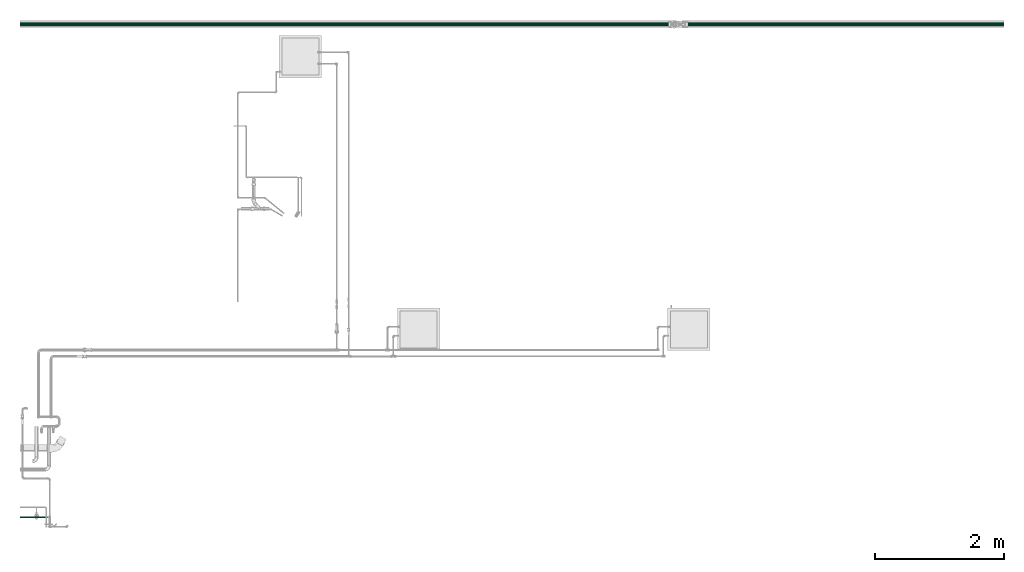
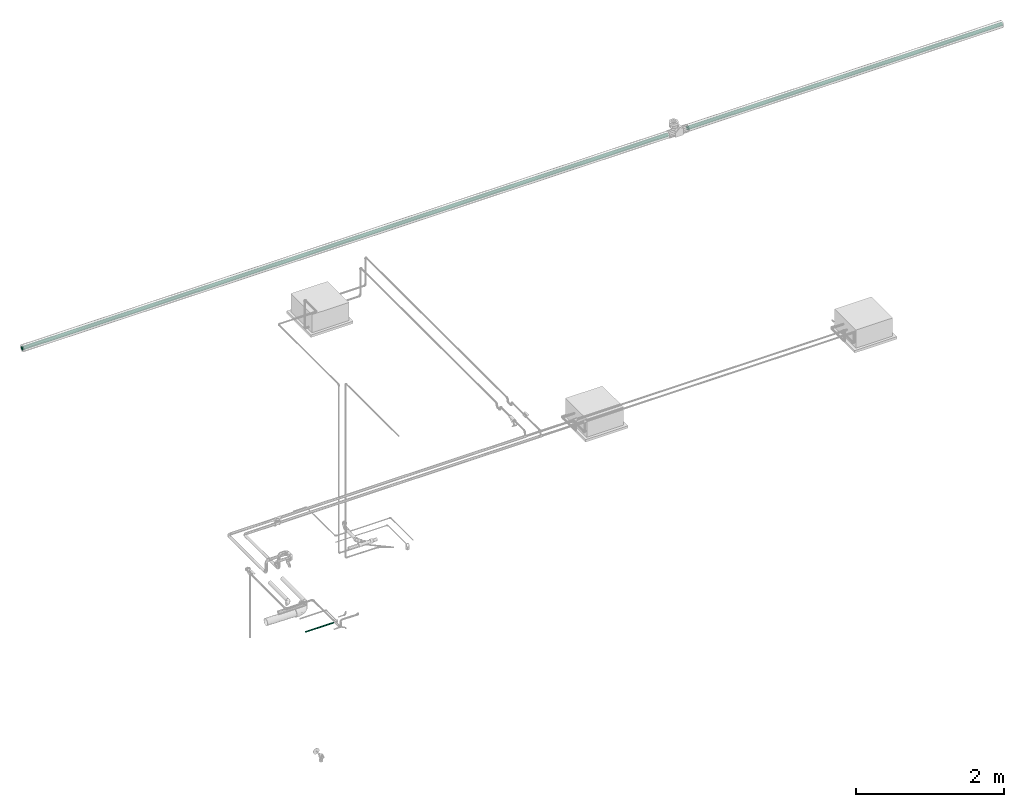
# One storey, part 24 of 35: 3 flow segments.
"""IFC2X3 building model written with IfcOpenShell, lengths in millimetres."""

from ifc_helpers import new_model, entity, si_unit, converted_unit, derived_unit, direction, frame, place, context, subcontext, project, spatial, faceted_brep, type_object, element, save


model = new_model("IFC2X3")

# Units and contexts
model_context = context("Model", 3, precision=0.01, world=frame((0.0, 4.29681676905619e-09, 0.0)), true_north=direction((4.01073788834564e-13, 1.0)))
plan_context = context("Plan", 3, precision=0.01, world=frame((0.0, 4.29681676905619e-09, 0.0)), true_north=direction((4.01073788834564e-13, 1.0)))
body_context = subcontext(model_context, "Body", "Model", "MODEL_VIEW")
ifc_project = project(units=[converted_unit("PLANEANGLEUNIT", "DEGREE", entity("IfcPositiveLengthMeasure", 0.0174532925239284), si_unit("PLANEANGLEUNIT", "RADIAN"), dimensions=[0, 0, 0, 0, 0, 0, 0]), si_unit("AREAUNIT", "SQUARE_METRE"), si_unit("LENGTHUNIT", "METRE", prefix="MILLI"), si_unit("MASSUNIT", "GRAM", prefix="KILO"), si_unit("POWERUNIT", "WATT"), si_unit("PRESSUREUNIT", "PASCAL"), si_unit("FORCEUNIT", "NEWTON", prefix="KILO"), si_unit("ELECTRICVOLTAGEUNIT", "VOLT"), si_unit("ELECTRICCURRENTUNIT", "AMPERE"), si_unit("THERMODYNAMICTEMPERATUREUNIT", "DEGREE_CELSIUS"), si_unit("TIMEUNIT", "SECOND"), si_unit("VOLUMEUNIT", "CUBIC_METRE"), derived_unit("LINEARVELOCITYUNIT", [(si_unit("LENGTHUNIT", "METRE"), 1), (si_unit("TIMEUNIT", "SECOND"), -1)]), derived_unit("VOLUMETRICFLOWRATEUNIT", [(si_unit("VOLUMEUNIT", "CUBIC_METRE"), 1), (si_unit("TIMEUNIT", "SECOND"), -1)]), derived_unit("THERMALTRANSMITTANCEUNIT", [(si_unit("POWERUNIT", "WATT"), 1), (si_unit("THERMODYNAMICTEMPERATUREUNIT", "KELVIN"), -1), (si_unit("AREAUNIT", "SQUARE_METRE"), -1)]), derived_unit("SOUNDPRESSUREUNIT", [(si_unit("PRESSUREUNIT", "PASCAL"), 1)])], contexts=[model_context, plan_context])

# Site, building, storey
site_placement = place(None, frame((0.0, -4.29681676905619e-09, 0.0), z_axis=(0.0, 0.0, 1.0), x_axis=(1.0, 0.0, 0.0)))
site = spatial("IfcSite", under=ifc_project, at=site_placement, Name="ENGM", CompositionType="ELEMENT")
building_placement = place(site_placement, frame((0.0, 4.29681676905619e-09, 0.0), z_axis=(0.0, 0.0, 1.0), x_axis=(1.0, 0.0, 0.0)))
building = spatial("IfcBuilding", under=site, at=building_placement, Name="TH", CompositionType="ELEMENT")
storey_placement = place(building_placement, frame((0.0, 0.0, 210200.0), z_axis=(0.0, 0.0, 1.0), x_axis=(1.0, 0.0, 0.0)))
storey = spatial("IfcBuildingStorey", under=building, at=storey_placement, Name="Nivå F - 0,7 m", CompositionType="ELEMENT", Elevation=210200.0)

# Flow segments
pipe_segment_type_1 = type_object("IfcPipeSegmentType", Name="MA", PredefinedType="RIGIDSEGMENT")
flow_segment_1_placement = place(storey_placement, frame((893206.46324, 486361.4, 3085.00002000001), z_axis=(0.0, 0.0, 1.0), x_axis=(1.0, 0.0, 0.0)))
element("IfcFlowSegment", 1, at=flow_segment_1_placement, inside=storey, type_object=pipe_segment_type_1, Name="MA", context=body_context, shape_type="Brep", body=[
    faceted_brep([(1905.4429285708, 26.5898093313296, -4.68850079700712), (1905.4429285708, 27.0, 0.0), (11985.8, 27.0, 0.0), (11985.8, 26.5898093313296, -4.68850079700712), (1905.4429285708, 25.3717007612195, -9.23454386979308), (11985.8, 25.3717007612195, -9.23454386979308), (1905.4429285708, 23.3826859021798, -13.5), (11985.8, 23.3826859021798, -13.5), (1905.4429285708, 20.6831999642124, -17.3552654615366), (11985.8, 20.6831999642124, -17.3552654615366), (1905.4429285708, 17.3552654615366, -20.6831999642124), (11985.8, 17.3552654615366, -20.6831999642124), (1905.4429285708, 13.5, -23.3826859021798), (11985.8, 13.5, -23.3826859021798), (1905.4429285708, 9.23454386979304, -25.3717007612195), (11985.8, 9.23454386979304, -25.3717007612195), (1905.4429285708, 4.68850079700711, -26.5898093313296), (11985.8, 4.68850079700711, -26.5898093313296), (1905.4429285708, -4.95981953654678e-15, -27.0), (11985.8, -4.95981953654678e-15, -27.0), (1905.4429285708, -4.68850079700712, -26.5898093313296), (11985.8, -4.68850079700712, -26.5898093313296), (1905.4429285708, -9.23454386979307, -25.3717007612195), (11985.8, -9.23454386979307, -25.3717007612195), (1905.4429285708, -13.5, -23.3826859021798), (11985.8, -13.5, -23.3826859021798), (1905.4429285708, -17.3552654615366, -20.6831999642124), (11985.8, -17.3552654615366, -20.6831999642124), (1905.4429285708, -20.6831999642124, -17.3552654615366), (11985.8, -20.6831999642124, -17.3552654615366), (1905.4429285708, -23.3826859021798, -13.5), (11985.8, -23.3826859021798, -13.5), (1905.4429285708, -25.3717007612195, -9.23454386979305), (11985.8, -25.3717007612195, -9.23454386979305), (1905.4429285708, -26.5898093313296, -4.68850079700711), (11985.8, -26.5898093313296, -4.68850079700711), (1905.4429285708, -27.0, 3.30654635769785e-15), (11985.8, -27.0, 3.30654635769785e-15), (1905.4429285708, -26.5898093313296, 4.68850079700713), (11985.8, -26.5898093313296, 4.68850079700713), (1905.4429285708, -25.3717007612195, 9.23454386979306), (11985.8, -25.3717007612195, 9.23454386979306), (1905.4429285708, -23.3826859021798, 13.5), (11985.8, -23.3826859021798, 13.5), (1905.4429285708, -20.6831999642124, 17.3552654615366), (11985.8, -20.6831999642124, 17.3552654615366), (1905.4429285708, -17.3552654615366, 20.6831999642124), (11985.8, -17.3552654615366, 20.6831999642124), (1905.4429285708, -13.5, 23.3826859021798), (11985.8, -13.5, 23.3826859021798), (1905.4429285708, -9.23454386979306, 25.3717007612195), (11985.8, -9.23454386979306, 25.3717007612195), (1905.4429285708, -4.68850079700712, 26.5898093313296), (11985.8, -4.68850079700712, 26.5898093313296), (1905.4429285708, 1.65327317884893e-15, 27.0), (11985.8, 1.65327317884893e-15, 27.0), (1905.4429285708, 4.68850079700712, 26.5898093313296), (11985.8, 4.68850079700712, 26.5898093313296), (1905.4429285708, 9.23454386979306, 25.3717007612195), (11985.8, 9.23454386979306, 25.3717007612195), (1905.4429285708, 13.5, 23.3826859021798), (11985.8, 13.5, 23.3826859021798), (1905.4429285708, 17.3552654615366, 20.6831999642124), (11985.8, 17.3552654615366, 20.6831999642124), (1905.4429285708, 20.6831999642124, 17.3552654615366), (11985.8, 20.6831999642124, 17.3552654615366), (1905.4429285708, 23.3826859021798, 13.5), (11985.8, 23.3826859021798, 13.5), (1905.4429285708, 25.3717007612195, 9.23454386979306), (11985.8, 25.3717007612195, 9.23454386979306), (1905.4429285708, 26.5898093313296, 4.68850079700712), (11985.8, 26.5898093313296, 4.68850079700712), (1905.4429285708, 29.0, 0.0), (1905.4429285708, 28.559424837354, -5.03579715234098), (11985.8, 28.559424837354, -5.03579715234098), (11985.8, 29.0, 0.0), (1905.4429285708, 28.559424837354, 5.03579715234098), (11985.8, 28.559424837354, 5.03579715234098), (1905.4429285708, 27.2510860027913, 9.91858415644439), (11985.8, 27.2510860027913, 9.91858415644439), (1905.4429285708, 25.1147367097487, 14.5), (11985.8, 25.1147367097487, 14.5), (1905.4429285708, 22.2152888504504, 18.6408406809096), (11985.8, 22.2152888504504, 18.6408406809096), (1905.4429285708, 18.6408406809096, 22.2152888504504), (11985.8, 18.6408406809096, 22.2152888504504), (1905.4429285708, 14.5, 25.1147367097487), (11985.8, 14.5, 25.1147367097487), (1905.4429285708, 9.9185841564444, 27.2510860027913), (11985.8, 9.9185841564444, 27.2510860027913), (1905.4429285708, 5.03579715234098, 28.559424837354), (11985.8, 5.03579715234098, 28.559424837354), (1905.4429285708, 1.77573785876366e-15, 29.0), (11985.8, 1.77573785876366e-15, 29.0), (1905.4429285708, -5.03579715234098, 28.559424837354), (11985.8, -5.03579715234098, 28.559424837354), (1905.4429285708, -9.91858415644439, 27.2510860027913), (11985.8, -9.91858415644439, 27.2510860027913), (1905.4429285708, -14.5, 25.1147367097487), (11985.8, -14.5, 25.1147367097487), (1905.4429285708, -18.6408406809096, 22.2152888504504), (11985.8, -18.6408406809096, 22.2152888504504), (1905.4429285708, -22.2152888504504, 18.6408406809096), (11985.8, -22.2152888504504, 18.6408406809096), (1905.4429285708, -25.1147367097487, 14.5), (11985.8, -25.1147367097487, 14.5), (1905.4429285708, -27.2510860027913, 9.9185841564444), (11985.8, -27.2510860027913, 9.9185841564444), (1905.4429285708, -28.559424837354, 5.03579715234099), (11985.8, -28.559424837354, 5.03579715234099), (1905.4429285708, -29.0, 3.55147571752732e-15), (11985.8, -29.0, 3.55147571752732e-15), (1905.4429285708, -28.559424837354, -5.03579715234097), (11985.8, -28.559424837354, -5.03579715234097), (1905.4429285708, -27.2510860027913, -9.91858415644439), (11985.8, -27.2510860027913, -9.91858415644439), (1905.4429285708, -25.1147367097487, -14.5), (11985.8, -25.1147367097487, -14.5), (1905.4429285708, -22.2152888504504, -18.6408406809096), (11985.8, -22.2152888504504, -18.6408406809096), (1905.4429285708, -18.6408406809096, -22.2152888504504), (11985.8, -18.6408406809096, -22.2152888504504), (1905.4429285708, -14.5, -25.1147367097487), (11985.8, -14.5, -25.1147367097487), (1905.4429285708, -9.91858415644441, -27.2510860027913), (11985.8, -9.91858415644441, -27.2510860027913), (1905.4429285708, -5.03579715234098, -28.559424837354), (11985.8, -5.03579715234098, -28.559424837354), (1905.4429285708, -5.32721357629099e-15, -29.0), (11985.8, -5.32721357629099e-15, -29.0), (1905.4429285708, 5.03579715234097, -28.559424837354), (11985.8, 5.03579715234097, -28.559424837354), (1905.4429285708, 9.91858415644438, -27.2510860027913), (11985.8, 9.91858415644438, -27.2510860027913), (1905.4429285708, 14.5, -25.1147367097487), (11985.8, 14.5, -25.1147367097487), (1905.4429285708, 18.6408406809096, -22.2152888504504), (11985.8, 18.6408406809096, -22.2152888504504), (1905.4429285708, 22.2152888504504, -18.6408406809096), (11985.8, 22.2152888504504, -18.6408406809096), (1905.4429285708, 25.1147367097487, -14.5), (11985.8, 25.1147367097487, -14.5), (1905.4429285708, 27.2510860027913, -9.91858415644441), (11985.8, 27.2510860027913, -9.91858415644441)], [[[0, 1, 2, 3]], [[4, 0, 3, 5]], [[6, 4, 5, 7]], [[8, 6, 7, 9]], [[10, 8, 9, 11]], [[12, 10, 11, 13]], [[14, 12, 13, 15]], [[16, 14, 15, 17]], [[18, 16, 17, 19]], [[20, 18, 19, 21]], [[22, 20, 21, 23]], [[24, 22, 23, 25]], [[26, 24, 25, 27]], [[28, 26, 27, 29]], [[30, 28, 29, 31]], [[32, 30, 31, 33]], [[34, 32, 33, 35]], [[36, 34, 35, 37]], [[38, 36, 37, 39]], [[40, 38, 39, 41]], [[42, 40, 41, 43]], [[44, 42, 43, 45]], [[46, 44, 45, 47]], [[48, 46, 47, 49]], [[50, 48, 49, 51]], [[52, 50, 51, 53]], [[54, 52, 53, 55]], [[56, 54, 55, 57]], [[58, 56, 57, 59]], [[60, 58, 59, 61]], [[62, 60, 61, 63]], [[64, 62, 63, 65]], [[66, 64, 65, 67]], [[68, 66, 67, 69]], [[70, 68, 69, 71]], [[1, 70, 71, 2]], [[72, 73, 74, 75]], [[76, 72, 75, 77]], [[78, 76, 77, 79]], [[80, 78, 79, 81]], [[82, 80, 81, 83]], [[84, 82, 83, 85]], [[86, 84, 85, 87]], [[88, 86, 87, 89]], [[90, 88, 89, 91]], [[92, 90, 91, 93]], [[94, 92, 93, 95]], [[96, 94, 95, 97]], [[98, 96, 97, 99]], [[100, 98, 99, 101]], [[102, 100, 101, 103]], [[104, 102, 103, 105]], [[106, 104, 105, 107]], [[108, 106, 107, 109]], [[110, 108, 109, 111]], [[112, 110, 111, 113]], [[114, 112, 113, 115]], [[116, 114, 115, 117]], [[118, 116, 117, 119]], [[120, 118, 119, 121]], [[122, 120, 121, 123]], [[124, 122, 123, 125]], [[126, 124, 125, 127]], [[128, 126, 127, 129]], [[130, 128, 129, 131]], [[132, 130, 131, 133]], [[134, 132, 133, 135]], [[136, 134, 135, 137]], [[138, 136, 137, 139]], [[140, 138, 139, 141]], [[142, 140, 141, 143]], [[73, 142, 143, 74]], [[75, 74, 143, 141, 139, 137, 135, 133, 131, 129, 127, 125, 123, 121, 119, 117, 115, 113, 111, 109, 107, 105, 103, 101, 99, 97, 95, 93, 91, 89, 87, 85, 83, 81, 79, 77], [2, 71, 69, 67, 65, 63, 61, 59, 57, 55, 53, 51, 49, 47, 45, 43, 41, 39, 37, 35, 33, 31, 29, 27, 25, 23, 21, 19, 17, 15, 13, 11, 9, 7, 5, 3]], [[76, 78, 80, 82, 84, 86, 88, 90, 92, 94, 96, 98, 100, 102, 104, 106, 108, 110, 112, 114, 116, 118, 120, 122, 124, 126, 128, 130, 132, 134, 136, 138, 140, 142, 73, 72], [4, 6, 8, 10, 12, 14, 16, 18, 20, 22, 24, 26, 28, 30, 32, 34, 36, 38, 40, 42, 44, 46, 48, 50, 52, 54, 56, 58, 60, 62, 64, 66, 68, 70, 1, 0]]], orient=[[False], [False], [False], [False], [False], [False], [False], [False], [False], [False], [False], [False], [False], [False], [False], [False], [False], [False], [False], [False], [False], [False], [False], [False], [False], [False], [False], [False], [False], [False], [False], [False], [False], [False], [False], [False], [False], [False], [False], [False], [False], [False], [False], [False], [False], [False], [False], [False], [False], [False], [False], [False], [False], [False], [False], [False], [False], [False], [False], [False], [False], [False], [False], [False], [False], [False], [False], [False], [False], [False], [False], [False], [False, False], [False, False]]),
])
flow_segment_2_placement = place(storey_placement, frame((905495.28907, 486361.4, 3085.00002000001), z_axis=(0.0, 0.0, 1.0), x_axis=(1.0, 0.0, 0.0)))
element("IfcFlowSegment", 2, at=flow_segment_2_placement, inside=storey, type_object=pipe_segment_type_1, Name="MA", context=body_context, shape_type="Brep", body=[
    faceted_brep([(4915.29577179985, 27.0, 0.0), (4915.29577179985, 26.5898093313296, -4.68850079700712), (0.0, 26.5898093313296, -4.68850079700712), (0.0, 27.0, 0.0), (4915.29577179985, 25.3717007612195, -9.23454386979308), (0.0, 25.3717007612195, -9.23454386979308), (4915.29577179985, 23.3826859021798, -13.5), (0.0, 23.3826859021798, -13.5), (4915.29577179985, 20.6831999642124, -17.3552654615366), (0.0, 20.6831999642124, -17.3552654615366), (4915.29577179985, 17.3552654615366, -20.6831999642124), (0.0, 17.3552654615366, -20.6831999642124), (4915.29577179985, 13.5, -23.3826859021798), (0.0, 13.5, -23.3826859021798), (4915.29577179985, 9.23454386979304, -25.3717007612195), (0.0, 9.23454386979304, -25.3717007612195), (4915.29577179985, 4.68850079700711, -26.5898093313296), (0.0, 4.68850079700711, -26.5898093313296), (4915.29577179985, -4.95981953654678e-15, -27.0), (0.0, -4.95981953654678e-15, -27.0), (4915.29577179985, -4.68850079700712, -26.5898093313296), (0.0, -4.68850079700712, -26.5898093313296), (4915.29577179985, -9.23454386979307, -25.3717007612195), (0.0, -9.23454386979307, -25.3717007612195), (4915.29577179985, -13.5, -23.3826859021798), (0.0, -13.5, -23.3826859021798), (4915.29577179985, -17.3552654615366, -20.6831999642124), (0.0, -17.3552654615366, -20.6831999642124), (4915.29577179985, -20.6831999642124, -17.3552654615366), (0.0, -20.6831999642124, -17.3552654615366), (4915.29577179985, -23.3826859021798, -13.5), (0.0, -23.3826859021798, -13.5), (4915.29577179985, -25.3717007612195, -9.23454386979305), (0.0, -25.3717007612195, -9.23454386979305), (4915.29577179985, -26.5898093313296, -4.68850079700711), (0.0, -26.5898093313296, -4.68850079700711), (4915.29577179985, -27.0, 3.30654635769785e-15), (0.0, -27.0, 3.30654635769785e-15), (4915.29577179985, -26.5898093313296, 4.68850079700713), (0.0, -26.5898093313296, 4.68850079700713), (4915.29577179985, -25.3717007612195, 9.23454386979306), (0.0, -25.3717007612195, 9.23454386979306), (4915.29577179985, -23.3826859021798, 13.5), (0.0, -23.3826859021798, 13.5), (4915.29577179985, -20.6831999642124, 17.3552654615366), (0.0, -20.6831999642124, 17.3552654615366), (4915.29577179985, -17.3552654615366, 20.6831999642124), (0.0, -17.3552654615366, 20.6831999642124), (4915.29577179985, -13.5, 23.3826859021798), (0.0, -13.5, 23.3826859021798), (4915.29577179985, -9.23454386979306, 25.3717007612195), (0.0, -9.23454386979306, 25.3717007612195), (4915.29577179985, -4.68850079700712, 26.5898093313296), (0.0, -4.68850079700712, 26.5898093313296), (4915.29577179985, 1.65327317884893e-15, 27.0), (0.0, 1.65327317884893e-15, 27.0), (4915.29577179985, 4.68850079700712, 26.5898093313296), (0.0, 4.68850079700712, 26.5898093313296), (4915.29577179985, 9.23454386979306, 25.3717007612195), (0.0, 9.23454386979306, 25.3717007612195), (4915.29577179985, 13.5, 23.3826859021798), (0.0, 13.5, 23.3826859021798), (4915.29577179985, 17.3552654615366, 20.6831999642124), (0.0, 17.3552654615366, 20.6831999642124), (4915.29577179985, 20.6831999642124, 17.3552654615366), (0.0, 20.6831999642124, 17.3552654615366), (4915.29577179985, 23.3826859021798, 13.5), (0.0, 23.3826859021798, 13.5), (4915.29577179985, 25.3717007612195, 9.23454386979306), (0.0, 25.3717007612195, 9.23454386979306), (4915.29577179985, 26.5898093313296, 4.68850079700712), (0.0, 26.5898093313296, 4.68850079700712), (4915.29577179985, 28.559424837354, -5.03579715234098), (4915.29577179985, 29.0, 0.0), (0.0, 29.0, 0.0), (0.0, 28.559424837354, -5.03579715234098), (4915.29577179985, 28.559424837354, 5.03579715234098), (0.0, 28.559424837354, 5.03579715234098), (4915.29577179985, 27.2510860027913, 9.91858415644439), (0.0, 27.2510860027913, 9.91858415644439), (4915.29577179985, 25.1147367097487, 14.5), (0.0, 25.1147367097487, 14.5), (4915.29577179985, 22.2152888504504, 18.6408406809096), (0.0, 22.2152888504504, 18.6408406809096), (4915.29577179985, 18.6408406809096, 22.2152888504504), (0.0, 18.6408406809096, 22.2152888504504), (4915.29577179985, 14.5, 25.1147367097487), (0.0, 14.5, 25.1147367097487), (4915.29577179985, 9.9185841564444, 27.2510860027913), (0.0, 9.9185841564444, 27.2510860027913), (4915.29577179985, 5.03579715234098, 28.559424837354), (0.0, 5.03579715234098, 28.559424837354), (4915.29577179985, 1.77573785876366e-15, 29.0), (0.0, 1.77573785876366e-15, 29.0), (4915.29577179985, -5.03579715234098, 28.559424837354), (0.0, -5.03579715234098, 28.559424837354), (4915.29577179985, -9.91858415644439, 27.2510860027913), (0.0, -9.91858415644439, 27.2510860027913), (4915.29577179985, -14.5, 25.1147367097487), (0.0, -14.5, 25.1147367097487), (4915.29577179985, -18.6408406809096, 22.2152888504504), (0.0, -18.6408406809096, 22.2152888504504), (4915.29577179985, -22.2152888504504, 18.6408406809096), (0.0, -22.2152888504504, 18.6408406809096), (4915.29577179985, -25.1147367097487, 14.5), (0.0, -25.1147367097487, 14.5), (4915.29577179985, -27.2510860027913, 9.9185841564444), (0.0, -27.2510860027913, 9.9185841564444), (4915.29577179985, -28.559424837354, 5.03579715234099), (0.0, -28.559424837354, 5.03579715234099), (4915.29577179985, -29.0, 3.55147571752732e-15), (0.0, -29.0, 3.55147571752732e-15), (4915.29577179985, -28.559424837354, -5.03579715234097), (0.0, -28.559424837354, -5.03579715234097), (4915.29577179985, -27.2510860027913, -9.91858415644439), (0.0, -27.2510860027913, -9.91858415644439), (4915.29577179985, -25.1147367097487, -14.5), (0.0, -25.1147367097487, -14.5), (4915.29577179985, -22.2152888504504, -18.6408406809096), (0.0, -22.2152888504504, -18.6408406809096), (4915.29577179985, -18.6408406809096, -22.2152888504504), (0.0, -18.6408406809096, -22.2152888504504), (4915.29577179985, -14.5, -25.1147367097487), (0.0, -14.5, -25.1147367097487), (4915.29577179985, -9.91858415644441, -27.2510860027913), (0.0, -9.91858415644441, -27.2510860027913), (4915.29577179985, -5.03579715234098, -28.559424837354), (0.0, -5.03579715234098, -28.559424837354), (4915.29577179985, -5.32721357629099e-15, -29.0), (0.0, -5.32721357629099e-15, -29.0), (4915.29577179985, 5.03579715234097, -28.559424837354), (0.0, 5.03579715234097, -28.559424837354), (4915.29577179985, 9.91858415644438, -27.2510860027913), (0.0, 9.91858415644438, -27.2510860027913), (4915.29577179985, 14.5, -25.1147367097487), (0.0, 14.5, -25.1147367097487), (4915.29577179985, 18.6408406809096, -22.2152888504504), (0.0, 18.6408406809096, -22.2152888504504), (4915.29577179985, 22.2152888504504, -18.6408406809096), (0.0, 22.2152888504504, -18.6408406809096), (4915.29577179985, 25.1147367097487, -14.5), (0.0, 25.1147367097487, -14.5), (4915.29577179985, 27.2510860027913, -9.91858415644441), (0.0, 27.2510860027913, -9.91858415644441)], [[[0, 1, 2, 3]], [[1, 4, 5, 2]], [[4, 6, 7, 5]], [[6, 8, 9, 7]], [[8, 10, 11, 9]], [[10, 12, 13, 11]], [[12, 14, 15, 13]], [[14, 16, 17, 15]], [[16, 18, 19, 17]], [[18, 20, 21, 19]], [[20, 22, 23, 21]], [[22, 24, 25, 23]], [[24, 26, 27, 25]], [[26, 28, 29, 27]], [[28, 30, 31, 29]], [[30, 32, 33, 31]], [[32, 34, 35, 33]], [[34, 36, 37, 35]], [[36, 38, 39, 37]], [[38, 40, 41, 39]], [[40, 42, 43, 41]], [[42, 44, 45, 43]], [[44, 46, 47, 45]], [[46, 48, 49, 47]], [[48, 50, 51, 49]], [[50, 52, 53, 51]], [[52, 54, 55, 53]], [[54, 56, 57, 55]], [[56, 58, 59, 57]], [[58, 60, 61, 59]], [[60, 62, 63, 61]], [[62, 64, 65, 63]], [[64, 66, 67, 65]], [[66, 68, 69, 67]], [[68, 70, 71, 69]], [[70, 0, 3, 71]], [[72, 73, 74, 75]], [[73, 76, 77, 74]], [[76, 78, 79, 77]], [[78, 80, 81, 79]], [[80, 82, 83, 81]], [[82, 84, 85, 83]], [[84, 86, 87, 85]], [[86, 88, 89, 87]], [[88, 90, 91, 89]], [[90, 92, 93, 91]], [[92, 94, 95, 93]], [[94, 96, 97, 95]], [[96, 98, 99, 97]], [[98, 100, 101, 99]], [[100, 102, 103, 101]], [[102, 104, 105, 103]], [[104, 106, 107, 105]], [[106, 108, 109, 107]], [[108, 110, 111, 109]], [[110, 112, 113, 111]], [[112, 114, 115, 113]], [[114, 116, 117, 115]], [[116, 118, 119, 117]], [[118, 120, 121, 119]], [[120, 122, 123, 121]], [[122, 124, 125, 123]], [[124, 126, 127, 125]], [[126, 128, 129, 127]], [[128, 130, 131, 129]], [[130, 132, 133, 131]], [[132, 134, 135, 133]], [[134, 136, 137, 135]], [[136, 138, 139, 137]], [[138, 140, 141, 139]], [[140, 142, 143, 141]], [[142, 72, 75, 143]], [[75, 74, 77, 79, 81, 83, 85, 87, 89, 91, 93, 95, 97, 99, 101, 103, 105, 107, 109, 111, 113, 115, 117, 119, 121, 123, 125, 127, 129, 131, 133, 135, 137, 139, 141, 143], [3, 2, 5, 7, 9, 11, 13, 15, 17, 19, 21, 23, 25, 27, 29, 31, 33, 35, 37, 39, 41, 43, 45, 47, 49, 51, 53, 55, 57, 59, 61, 63, 65, 67, 69, 71]], [[142, 140, 138, 136, 134, 132, 130, 128, 126, 124, 122, 120, 118, 116, 114, 112, 110, 108, 106, 104, 102, 100, 98, 96, 94, 92, 90, 88, 86, 84, 82, 80, 78, 76, 73, 72], [70, 68, 66, 64, 62, 60, 58, 56, 54, 52, 50, 48, 46, 44, 42, 40, 38, 36, 34, 32, 30, 28, 26, 24, 22, 20, 18, 16, 14, 12, 10, 8, 6, 4, 1, 0]]], orient=[[False], [False], [False], [False], [False], [False], [False], [False], [False], [False], [False], [False], [False], [False], [False], [False], [False], [False], [False], [False], [False], [False], [False], [False], [False], [False], [False], [False], [False], [False], [False], [False], [False], [False], [False], [False], [False], [False], [False], [False], [False], [False], [False], [False], [False], [False], [False], [False], [False], [False], [False], [False], [False], [False], [False], [False], [False], [False], [False], [False], [False], [False], [False], [False], [False], [False], [False], [False], [False], [False], [False], [False], [False, False], [False, False]]),
])
pipe_segment_type_2 = type_object("IfcPipeSegmentType", Name="Kobberrør", PredefinedType="RIGIDSEGMENT")
flow_segment_3_placement = place(storey_placement, frame((893229.20211, 478692.05558, 3055.47382000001), z_axis=(0.0, 0.0, 1.0), x_axis=(1.0, 0.0, 0.0)))
element("IfcFlowSegment", 3, at=flow_segment_3_placement, inside=storey, type_object=pipe_segment_type_2, Name="Kobberrør", context=body_context, shape_type="Brep", body=[
    faceted_brep([(1882.7040585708, 5.41644264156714, -0.955064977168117), (1882.7040585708, 5.5, 0.0), (2318.0, 5.5, 0.0), (2318.0, 5.41644264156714, -0.955064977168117), (1882.7040585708, 5.16830941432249, -1.88111078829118), (2318.0, 5.16830941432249, -1.88111078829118), (1882.7040585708, 4.76313972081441, -2.75), (2318.0, 4.76313972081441, -2.75), (1882.7040585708, 4.21324443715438, -3.53533185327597), (2318.0, 4.21324443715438, -3.53533185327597), (1882.7040585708, 3.53533185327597, -4.21324443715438), (2318.0, 3.53533185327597, -4.21324443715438), (1882.7040585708, 2.75, -4.76313972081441), (2318.0, 2.75, -4.76313972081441), (1882.7040585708, 1.88111078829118, -5.1683094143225), (2318.0, 1.88111078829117, -5.1683094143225), (1882.7040585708, 0.955064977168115, -5.41644264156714), (2318.0, 0.955064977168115, -5.41644264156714), (1882.7040585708, -1.01033360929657e-15, -5.5), (2318.0, -1.01033360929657e-15, -5.5), (1882.7040585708, -0.955064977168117, -5.41644264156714), (2318.0, -0.955064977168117, -5.41644264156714), (1882.7040585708, -1.88111078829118, -5.1683094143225), (2318.0, -1.88111078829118, -5.1683094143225), (1882.7040585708, -2.75, -4.76313972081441), (2318.0, -2.75, -4.76313972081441), (1882.7040585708, -3.53533185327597, -4.21324443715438), (2318.0, -3.53533185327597, -4.21324443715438), (1882.7040585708, -4.21324443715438, -3.53533185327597), (2318.0, -4.21324443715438, -3.53533185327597), (1882.7040585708, -4.76313972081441, -2.75), (2318.0, -4.76313972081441, -2.75), (1882.7040585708, -5.1683094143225, -1.88111078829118), (2318.0, -5.1683094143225, -1.88111078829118), (1882.7040585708, -5.41644264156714, -0.955064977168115), (2318.0, -5.41644264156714, -0.955064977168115), (1882.7040585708, -5.5, 6.73555739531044e-16), (2318.0, -5.5, 6.73555739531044e-16), (1882.7040585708, -5.41644264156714, 0.955064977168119), (2318.0, -5.41644264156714, 0.955064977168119), (1882.7040585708, -5.1683094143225, 1.88111078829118), (2318.0, -5.1683094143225, 1.88111078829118), (1882.7040585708, -4.76313972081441, 2.75), (2318.0, -4.76313972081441, 2.75), (1882.7040585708, -4.21324443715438, 3.53533185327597), (2318.0, -4.21324443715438, 3.53533185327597), (1882.7040585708, -3.53533185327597, 4.21324443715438), (2318.0, -3.53533185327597, 4.21324443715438), (1882.7040585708, -2.75, 4.76313972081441), (2318.0, -2.75, 4.76313972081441), (1882.7040585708, -1.88111078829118, 5.1683094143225), (2318.0, -1.88111078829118, 5.1683094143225), (1882.7040585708, -0.955064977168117, 5.41644264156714), (2318.0, -0.955064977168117, 5.41644264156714), (1882.7040585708, 3.36777869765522e-16, 5.5), (2318.0, 3.36777869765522e-16, 5.5), (1882.7040585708, 0.955064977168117, 5.41644264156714), (2318.0, 0.955064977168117, 5.41644264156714), (1882.7040585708, 1.88111078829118, 5.1683094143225), (2318.0, 1.88111078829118, 5.1683094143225), (1882.7040585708, 2.75, 4.76313972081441), (2318.0, 2.75, 4.76313972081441), (1882.7040585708, 3.53533185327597, 4.21324443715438), (2318.0, 3.53533185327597, 4.21324443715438), (1882.7040585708, 4.21324443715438, 3.53533185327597), (2318.0, 4.21324443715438, 3.53533185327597), (1882.7040585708, 4.76313972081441, 2.75), (2318.0, 4.76313972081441, 2.75), (1882.7040585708, 5.1683094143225, 1.88111078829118), (2318.0, 5.1683094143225, 1.88111078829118), (1882.7040585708, 5.41644264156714, 0.955064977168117), (2318.0, 5.41644264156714, 0.955064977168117), (1882.7040585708, 7.5, 0.0), (1882.7040585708, 7.38605814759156, -1.30236133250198), (2318.0, 7.38605814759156, -1.30236133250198), (2318.0, 7.5, 0.0), (1882.7040585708, 7.38605814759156, 1.30236133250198), (2318.0, 7.38605814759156, 1.30236133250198), (1882.7040585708, 7.04769465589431, 2.56515107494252), (2318.0, 7.04769465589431, 2.56515107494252), (1882.7040585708, 6.49519052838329, 3.75), (2318.0, 6.49519052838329, 3.75), (1882.7040585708, 5.74533332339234, 4.82090707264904), (2318.0, 5.74533332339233, 4.82090707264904), (1882.7040585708, 4.82090707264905, 5.74533332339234), (2318.0, 4.82090707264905, 5.74533332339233), (1882.7040585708, 3.75, 6.49519052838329), (2318.0, 3.75, 6.49519052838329), (1882.7040585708, 2.56515107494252, 7.04769465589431), (2318.0, 2.56515107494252, 7.04769465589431), (1882.7040585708, 1.30236133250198, 7.38605814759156), (2318.0, 1.30236133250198, 7.38605814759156), (1882.7040585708, 4.59242549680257e-16, 7.5), (2318.0, 4.59242549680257e-16, 7.5), (1882.7040585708, -1.30236133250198, 7.38605814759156), (2318.0, -1.30236133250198, 7.38605814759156), (1882.7040585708, -2.56515107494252, 7.04769465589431), (2318.0, -2.56515107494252, 7.04769465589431), (1882.7040585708, -3.75, 6.49519052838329), (2318.0, -3.75, 6.49519052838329), (1882.7040585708, -4.82090707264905, 5.74533332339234), (2318.0, -4.82090707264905, 5.74533332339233), (1882.7040585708, -5.74533332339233, 4.82090707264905), (2318.0, -5.74533332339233, 4.82090707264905), (1882.7040585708, -6.49519052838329, 3.75), (2318.0, -6.49519052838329, 3.75), (1882.7040585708, -7.04769465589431, 2.56515107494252), (2318.0, -7.04769465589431, 2.56515107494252), (1882.7040585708, -7.38605814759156, 1.30236133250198), (2318.0, -7.38605814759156, 1.30236133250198), (1882.7040585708, -7.5, 9.18485099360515e-16), (2318.0, -7.5, 9.18485099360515e-16), (1882.7040585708, -7.38605814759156, -1.30236133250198), (2318.0, -7.38605814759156, -1.30236133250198), (1882.7040585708, -7.04769465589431, -2.56515107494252), (2318.0, -7.04769465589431, -2.56515107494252), (1882.7040585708, -6.49519052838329, -3.75), (2318.0, -6.49519052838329, -3.75), (1882.7040585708, -5.74533332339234, -4.82090707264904), (2318.0, -5.74533332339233, -4.82090707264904), (1882.7040585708, -4.82090707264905, -5.74533332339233), (2318.0, -4.82090707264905, -5.74533332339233), (1882.7040585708, -3.75, -6.49519052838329), (2318.0, -3.75, -6.49519052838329), (1882.7040585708, -2.56515107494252, -7.04769465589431), (2318.0, -2.56515107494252, -7.04769465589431), (1882.7040585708, -1.30236133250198, -7.38605814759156), (2318.0, -1.30236133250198, -7.38605814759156), (1882.7040585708, -1.37772764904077e-15, -7.5), (2318.0, -1.37772764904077e-15, -7.5), (1882.7040585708, 1.30236133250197, -7.38605814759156), (2318.0, 1.30236133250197, -7.38605814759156), (1882.7040585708, 2.56515107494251, -7.04769465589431), (2318.0, 2.56515107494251, -7.04769465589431), (1882.7040585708, 3.75, -6.49519052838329), (2318.0, 3.75, -6.49519052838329), (1882.7040585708, 4.82090707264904, -5.74533332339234), (2318.0, 4.82090707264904, -5.74533332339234), (1882.7040585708, 5.74533332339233, -4.82090707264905), (2318.0, 5.74533332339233, -4.82090707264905), (1882.7040585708, 6.49519052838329, -3.75), (2318.0, 6.49519052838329, -3.75), (1882.7040585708, 7.04769465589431, -2.56515107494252), (2318.0, 7.04769465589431, -2.56515107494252)], [[[0, 1, 2, 3]], [[4, 0, 3, 5]], [[6, 4, 5, 7]], [[8, 6, 7, 9]], [[10, 8, 9, 11]], [[12, 10, 11, 13]], [[14, 12, 13, 15]], [[16, 14, 15, 17]], [[18, 16, 17, 19]], [[20, 18, 19, 21]], [[22, 20, 21, 23]], [[24, 22, 23, 25]], [[26, 24, 25, 27]], [[28, 26, 27, 29]], [[30, 28, 29, 31]], [[32, 30, 31, 33]], [[34, 32, 33, 35]], [[36, 34, 35, 37]], [[38, 36, 37, 39]], [[40, 38, 39, 41]], [[42, 40, 41, 43]], [[44, 42, 43, 45]], [[46, 44, 45, 47]], [[48, 46, 47, 49]], [[50, 48, 49, 51]], [[52, 50, 51, 53]], [[54, 52, 53, 55]], [[56, 54, 55, 57]], [[58, 56, 57, 59]], [[60, 58, 59, 61]], [[62, 60, 61, 63]], [[64, 62, 63, 65]], [[66, 64, 65, 67]], [[68, 66, 67, 69]], [[70, 68, 69, 71]], [[1, 70, 71, 2]], [[72, 73, 74, 75]], [[76, 72, 75, 77]], [[78, 76, 77, 79]], [[80, 78, 79, 81]], [[82, 80, 81, 83]], [[84, 82, 83, 85]], [[86, 84, 85, 87]], [[88, 86, 87, 89]], [[90, 88, 89, 91]], [[92, 90, 91, 93]], [[94, 92, 93, 95]], [[96, 94, 95, 97]], [[98, 96, 97, 99]], [[100, 98, 99, 101]], [[102, 100, 101, 103]], [[104, 102, 103, 105]], [[106, 104, 105, 107]], [[108, 106, 107, 109]], [[110, 108, 109, 111]], [[112, 110, 111, 113]], [[114, 112, 113, 115]], [[116, 114, 115, 117]], [[118, 116, 117, 119]], [[120, 118, 119, 121]], [[122, 120, 121, 123]], [[124, 122, 123, 125]], [[126, 124, 125, 127]], [[128, 126, 127, 129]], [[130, 128, 129, 131]], [[132, 130, 131, 133]], [[134, 132, 133, 135]], [[136, 134, 135, 137]], [[138, 136, 137, 139]], [[140, 138, 139, 141]], [[142, 140, 141, 143]], [[73, 142, 143, 74]], [[75, 74, 143, 141, 139, 137, 135, 133, 131, 129, 127, 125, 123, 121, 119, 117, 115, 113, 111, 109, 107, 105, 103, 101, 99, 97, 95, 93, 91, 89, 87, 85, 83, 81, 79, 77], [2, 71, 69, 67, 65, 63, 61, 59, 57, 55, 53, 51, 49, 47, 45, 43, 41, 39, 37, 35, 33, 31, 29, 27, 25, 23, 21, 19, 17, 15, 13, 11, 9, 7, 5, 3]], [[76, 78, 80, 82, 84, 86, 88, 90, 92, 94, 96, 98, 100, 102, 104, 106, 108, 110, 112, 114, 116, 118, 120, 122, 124, 126, 128, 130, 132, 134, 136, 138, 140, 142, 73, 72], [4, 6, 8, 10, 12, 14, 16, 18, 20, 22, 24, 26, 28, 30, 32, 34, 36, 38, 40, 42, 44, 46, 48, 50, 52, 54, 56, 58, 60, 62, 64, 66, 68, 70, 1, 0]]], orient=[[False], [False], [False], [False], [False], [False], [False], [False], [False], [False], [False], [False], [False], [False], [False], [False], [False], [False], [False], [False], [False], [False], [False], [False], [False], [False], [False], [False], [False], [False], [False], [False], [False], [False], [False], [False], [False], [False], [False], [False], [False], [False], [False], [False], [False], [False], [False], [False], [False], [False], [False], [False], [False], [False], [False], [False], [False], [False], [False], [False], [False], [False], [False], [False], [False], [False], [False], [False], [False], [False], [False], [False], [False, False], [False, False]]),
])

save(model, "model.ifc")
